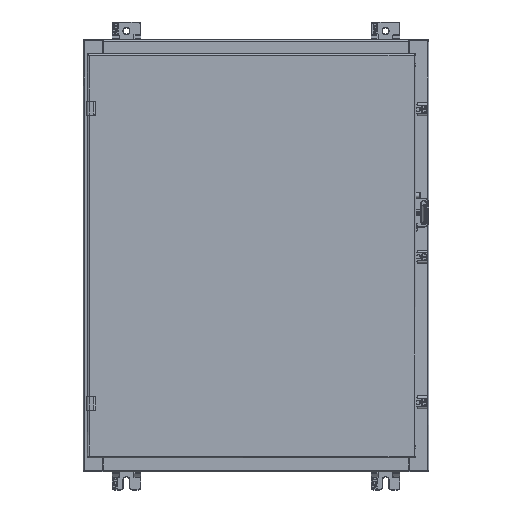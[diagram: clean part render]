
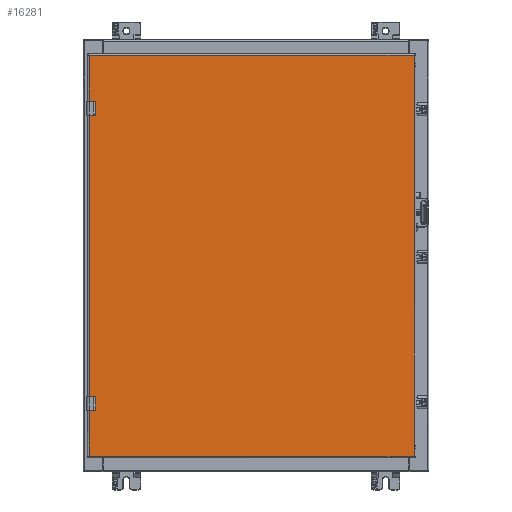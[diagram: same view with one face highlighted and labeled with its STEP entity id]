
A CAD part, top view. The second image highlights one B-rep face of the part: STEP entity #16281.
In plain terms, the highlighted planar face has unit normal (0, 0, 1) as drawn and (0, 1, 0) by its records, which use the part's own axes.
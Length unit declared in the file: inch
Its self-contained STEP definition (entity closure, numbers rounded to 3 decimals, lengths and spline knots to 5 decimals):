
#12582=DIRECTION('',(0.,0.,1.));
#12583=VECTOR('',#12582,22.566);
#12584=CARTESIAN_POINT('',(-13.91438,0.,0.117));
#12585=LINE('',#12584,#12583);
#12668=DIRECTION('',(0.,0.,-1.));
#12669=VECTOR('',#12668,0.3629);
#12670=CARTESIAN_POINT('',(10.59513,0.,22.683));
#12671=LINE('',#12670,#12669);
#12675=DIRECTION('',(-1.,0.,0.));
#12676=VECTOR('',#12675,0.63);
#12677=CARTESIAN_POINT('',(10.56513,0.,22.2901));
#12678=LINE('',#12677,#12676);
#12682=DIRECTION('',(0.,0.,-1.));
#12683=VECTOR('',#12682,0.3629);
#12684=CARTESIAN_POINT('',(9.90513,0.,22.683));
#12685=LINE('',#12684,#12683);
#12689=DIRECTION('',(0.,0.,-1.));
#12690=VECTOR('',#12689,0.3629);
#12691=CARTESIAN_POINT('',(-9.90513,0.,22.683));
#12692=LINE('',#12691,#12690);
#12696=DIRECTION('',(-1.,0.,0.));
#12697=VECTOR('',#12696,0.63);
#12698=CARTESIAN_POINT('',(-9.93513,0.,22.2901));
#12699=LINE('',#12698,#12697);
#12703=DIRECTION('',(0.,0.,-1.));
#12704=VECTOR('',#12703,0.3629);
#12705=CARTESIAN_POINT('',(-10.59513,0.,22.683));
#12706=LINE('',#12705,#12704);
#12710=DIRECTION('',(0.,0.,1.));
#12711=VECTOR('',#12710,22.566);
#12712=CARTESIAN_POINT('',(13.91438,0.,0.117));
#12713=LINE('',#12712,#12711);
#12895=DIRECTION('',(-1.,0.,0.));
#12896=VECTOR('',#12895,27.82875);
#12897=CARTESIAN_POINT('',(13.91438,0.,0.117));
#12898=LINE('',#12897,#12896);
#13861=CARTESIAN_POINT('',(9.93513,0.,22.3201));
#13862=DIRECTION('',(0.,-1.,0.));
#13863=DIRECTION('',(-1.,0.,0.));
#13864=AXIS2_PLACEMENT_3D('',#13861,#13862,#13863);
#13891=CARTESIAN_POINT('',(10.56513,0.,22.3201));
#13892=DIRECTION('',(0.,-1.,0.));
#13893=DIRECTION('',(0.,0.,-1.));
#13894=AXIS2_PLACEMENT_3D('',#13891,#13892,#13893);
#14300=DIRECTION('',(-1.,0.,0.));
#14301=VECTOR('',#14300,19.81025);
#14302=CARTESIAN_POINT('',(9.90513,0.,22.683));
#14303=LINE('',#14302,#14301);
#14346=DIRECTION('',(-1.,0.,0.));
#14347=VECTOR('',#14346,3.31925);
#14348=CARTESIAN_POINT('',(-10.59513,0.,22.683));
#14349=LINE('',#14348,#14347);
#14383=DIRECTION('',(-1.,0.,0.));
#14384=VECTOR('',#14383,3.31925);
#14385=CARTESIAN_POINT('',(13.91438,0.,22.683));
#14386=LINE('',#14385,#14384);
#14464=CARTESIAN_POINT('',(-10.56513,0.,22.3201));
#14465=DIRECTION('',(0.,-1.,0.));
#14466=DIRECTION('',(-1.,0.,0.));
#14467=AXIS2_PLACEMENT_3D('',#14464,#14465,#14466);
#14494=CARTESIAN_POINT('',(-9.93513,0.,22.3201));
#14495=DIRECTION('',(0.,-1.,0.));
#14496=DIRECTION('',(0.,0.,-1.));
#14497=AXIS2_PLACEMENT_3D('',#14494,#14495,#14496);
#15334=CARTESIAN_POINT('',(13.91438,0.,0.117));
#15335=CARTESIAN_POINT('',(-13.91438,0.,0.117));
#15336=VERTEX_POINT('',#15334);
#15337=VERTEX_POINT('',#15335);
#15544=CARTESIAN_POINT('',(-13.91438,0.,22.683));
#15545=VERTEX_POINT('',#15544);
#15554=CARTESIAN_POINT('',(13.91438,0.,22.683));
#15556=VERTEX_POINT('',#15554);
#15683=CARTESIAN_POINT('',(-9.90513,0.,22.683));
#15685=VERTEX_POINT('',#15683);
#15687=CARTESIAN_POINT('',(-10.59513,0.,22.683));
#15689=VERTEX_POINT('',#15687);
#15699=CARTESIAN_POINT('',(10.59513,0.,22.683));
#15701=VERTEX_POINT('',#15699);
#15703=CARTESIAN_POINT('',(9.90513,0.,22.683));
#15705=VERTEX_POINT('',#15703);
#15714=CARTESIAN_POINT('',(-10.59513,0.,22.3201));
#15716=VERTEX_POINT('',#15714);
#15718=CARTESIAN_POINT('',(-10.56513,0.,22.2901));
#15720=VERTEX_POINT('',#15718);
#15738=CARTESIAN_POINT('',(-9.93513,0.,22.2901));
#15740=VERTEX_POINT('',#15738);
#15742=CARTESIAN_POINT('',(-9.90513,0.,22.3201));
#15744=VERTEX_POINT('',#15742);
#15746=CARTESIAN_POINT('',(9.90513,0.,22.3201));
#15748=VERTEX_POINT('',#15746);
#15750=CARTESIAN_POINT('',(9.93513,0.,22.2901));
#15752=VERTEX_POINT('',#15750);
#15770=CARTESIAN_POINT('',(10.56513,0.,22.2901));
#15772=VERTEX_POINT('',#15770);
#15774=CARTESIAN_POINT('',(10.59513,0.,22.3201));
#15776=VERTEX_POINT('',#15774);
#16243=CARTESIAN_POINT('',(14.03138,0.,0.));
#16244=DIRECTION('',(0.,1.,0.));
#16245=DIRECTION('',(-1.,0.,0.));
#16246=AXIS2_PLACEMENT_3D('',#16243,#16244,#16245);
#16247=PLANE('',#16246);
#16249=ORIENTED_EDGE('',*,*,#16248,.T.);
#16251=ORIENTED_EDGE('',*,*,#16250,.T.);
#16253=ORIENTED_EDGE('',*,*,#16252,.T.);
#16255=ORIENTED_EDGE('',*,*,#16254,.F.);
#16257=ORIENTED_EDGE('',*,*,#16256,.T.);
#16259=ORIENTED_EDGE('',*,*,#16258,.F.);
#16261=ORIENTED_EDGE('',*,*,#16260,.F.);
#16263=ORIENTED_EDGE('',*,*,#16262,.T.);
#16265=ORIENTED_EDGE('',*,*,#16264,.T.);
#16267=ORIENTED_EDGE('',*,*,#16266,.F.);
#16269=ORIENTED_EDGE('',*,*,#16268,.T.);
#16271=ORIENTED_EDGE('',*,*,#16270,.F.);
#16273=ORIENTED_EDGE('',*,*,#16272,.F.);
#16275=ORIENTED_EDGE('',*,*,#16274,.T.);
#16276=ORIENTED_EDGE('',*,*,#16233,.F.);
#16278=ORIENTED_EDGE('',*,*,#16277,.F.);
#16279=EDGE_LOOP('',(#16249,#16251,#16253,#16255,#16257,#16259,#16261,#16263,
#16265,#16267,#16269,#16271,#16273,#16275,#16276,#16278));
#16280=FACE_OUTER_BOUND('',#16279,.F.);
#13865=CIRCLE('',#13864,0.03);
#13895=CIRCLE('',#13894,0.03);
#14468=CIRCLE('',#14467,0.03);
#14498=CIRCLE('',#14497,0.03);
#16233=EDGE_CURVE('',#15337,#15545,#12585,.T.);
#16248=EDGE_CURVE('',#15336,#15556,#12713,.T.);
#16250=EDGE_CURVE('',#15556,#15701,#14386,.T.);
#16252=EDGE_CURVE('',#15701,#15776,#12671,.T.);
#16254=EDGE_CURVE('',#15772,#15776,#13895,.T.);
#16256=EDGE_CURVE('',#15772,#15752,#12678,.T.);
#16258=EDGE_CURVE('',#15748,#15752,#13865,.T.);
#16260=EDGE_CURVE('',#15705,#15748,#12685,.T.);
#16262=EDGE_CURVE('',#15705,#15685,#14303,.T.);
#16264=EDGE_CURVE('',#15685,#15744,#12692,.T.);
#16266=EDGE_CURVE('',#15740,#15744,#14498,.T.);
#16268=EDGE_CURVE('',#15740,#15720,#12699,.T.);
#16270=EDGE_CURVE('',#15716,#15720,#14468,.T.);
#16272=EDGE_CURVE('',#15689,#15716,#12706,.T.);
#16274=EDGE_CURVE('',#15689,#15545,#14349,.T.);
#16277=EDGE_CURVE('',#15336,#15337,#12898,.T.);
#16281=ADVANCED_FACE('',(#16280),#16247,.T.);
